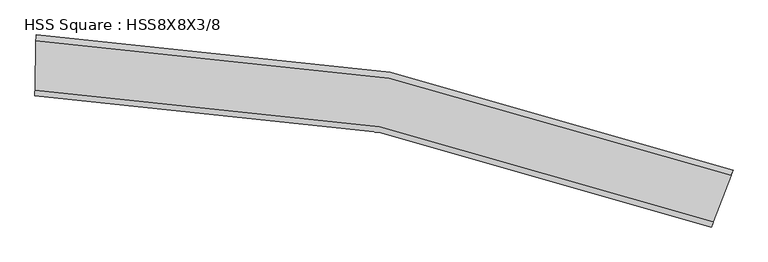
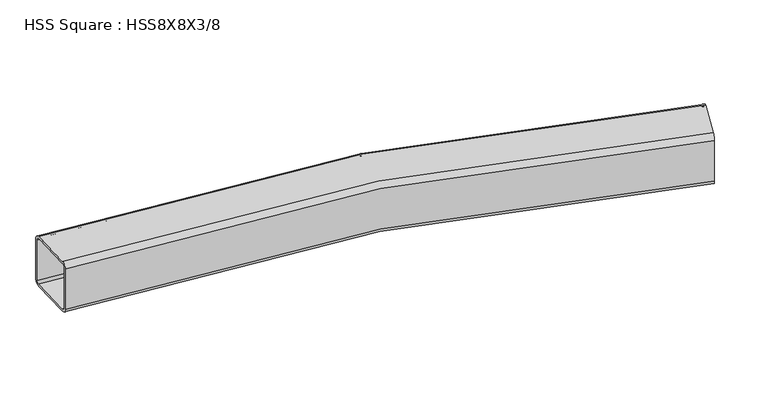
"""IFC4 building model written with IfcOpenShell, lengths in millimetres: beam geometry, HSS Square : HSS8X8X3/8."""

from ifc_helpers import new_model, si_unit, point, frame, origin, place, context, project, spatial, polyline, circle_curve, ellipse_curve, trimmed, source, transform, mapped, element, save
from ifc_brep_helpers import plane_surface, cylinder_surface, revolved_surface, advanced_brep


def hss_square_hss8x8x3_8_1cc8d9bf(model_context):
    return source(origin(), model_context, "Body", "AdvancedBrep", [
        advanced_brep(
        [(2459.9724964, -350.9683928, 82.55), (2453.1925998, -368.7710752, 101.6), (2394.4334956, -523.0609896, 101.6), (2387.653599, -540.863672, 82.55), (2387.653599, -540.863672, -82.55), (2394.4334956, -523.0609896, -101.6), (2453.1925998, -368.7710752, -101.6), (2459.9724964, -350.9683928, -82.55), (2394.4334956, -523.0609896, 92.075), (2453.1925998, -368.7710752, 92.075), (2456.5825481, -359.869734, 82.55), (2456.5825481, -359.869734, -82.55), (2453.1925998, -368.7710752, -92.075), (2394.4334956, -523.0609896, -92.075), (2391.0435473, -531.9623308, -82.55), (2391.0435473, -531.9623308, 82.55), (133.734971, 100.3061067, 82.55), (133.734971, 100.3061067, -82.55), (133.3663859, 81.2596728, -101.6), (130.1719814, -83.8094212, -101.6), (129.8033963, -102.8558551, -82.55), (129.8033963, -102.8558551, 82.55), (130.1719814, -83.8094212, 101.6), (133.3663859, 81.2596728, 101.6), (130.1719814, -83.8094212, 92.075), (129.9876888, -93.3326382, 82.55), (129.9876888, -93.3326382, -82.55), (130.1719814, -83.8094212, -92.075), (133.3663859, 81.2596728, -92.075), (133.5506784, 90.7828897, -82.55), (133.5506784, 90.7828897, 82.55), (133.3663859, 81.2596728, 92.075)],
        [
            (0, 1, circle_curve(frame((2453.1925998, -368.7710752, 82.55), z_axis=(0.9345240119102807, -0.355900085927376, 0.0), x_axis=(-0.355900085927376, -0.9345240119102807, 0.0)), 19.05)),
            (1, 2),
            (2, 3, circle_curve(frame((2394.4334956, -523.0609896, 82.55), z_axis=(0.9345240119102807, -0.355900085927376, 0.0), x_axis=(-0.355900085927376, -0.9345240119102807, 0.0)), 19.05)),
            (3, 4),
            (4, 5, circle_curve(frame((2394.4334956, -523.0609896, -82.55), z_axis=(0.9345240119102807, -0.355900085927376, 0.0), x_axis=(-0.355900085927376, -0.9345240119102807, 0.0)), 19.05)),
            (5, 6),
            (6, 7, circle_curve(frame((2453.1925998, -368.7710752, -82.55), z_axis=(0.9345240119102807, -0.355900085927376, 0.0), x_axis=(-0.355900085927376, -0.9345240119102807, 0.0)), 19.05)),
            (7, 0),
            (8, 9),
            (9, 10, circle_curve(frame((2453.1925998, -368.7710752, 82.55), z_axis=(-0.9345240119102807, 0.355900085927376, 0.0), x_axis=(-0.355900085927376, -0.9345240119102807, 0.0)), 9.525)),
            (10, 11),
            (11, 12, circle_curve(frame((2453.1925998, -368.7710752, -82.55), z_axis=(-0.9345240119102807, 0.355900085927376, 0.0), x_axis=(-0.355900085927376, -0.9345240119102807, 0.0)), 9.525)),
            (12, 13),
            (13, 14, circle_curve(frame((2394.4334956, -523.0609896, -82.55), z_axis=(-0.9345240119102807, 0.355900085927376, 0.0), x_axis=(-0.355900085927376, -0.9345240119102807, 0.0)), 9.525)),
            (14, 15),
            (15, 8, circle_curve(frame((2394.4334956, -523.0609896, 82.55), z_axis=(-0.9345240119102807, 0.355900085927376, 0.0), x_axis=(-0.355900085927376, -0.9345240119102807, 0.0)), 9.525)),
            (16, 17),
            (17, 18, circle_curve(frame((133.3663859, 81.2596728, -82.55), z_axis=(-0.999812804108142, 0.019348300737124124, 0.0), x_axis=(-0.019348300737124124, -0.999812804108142, 0.0)), 19.05)),
            (18, 19),
            (19, 20, circle_curve(frame((130.1719814, -83.8094212, -82.55), z_axis=(-0.999812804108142, 0.019348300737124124, 0.0), x_axis=(-0.019348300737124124, -0.999812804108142, 0.0)), 19.05)),
            (20, 21),
            (21, 22, circle_curve(frame((130.1719814, -83.8094212, 82.55), z_axis=(-0.999812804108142, 0.019348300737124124, 0.0), x_axis=(-0.019348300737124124, -0.999812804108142, 0.0)), 19.05)),
            (22, 23),
            (23, 16, circle_curve(frame((133.3663859, 81.2596728, 82.55), z_axis=(-0.999812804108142, 0.019348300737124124, 0.0), x_axis=(-0.019348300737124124, -0.999812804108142, 0.0)), 19.05)),
            (24, 25, circle_curve(frame((130.1719814, -83.8094212, 82.55), z_axis=(0.999812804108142, -0.019348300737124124, 0.0), x_axis=(-0.019348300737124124, -0.999812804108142, 0.0)), 9.525)),
            (25, 26),
            (26, 27, circle_curve(frame((130.1719814, -83.8094212, -82.55), z_axis=(0.999812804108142, -0.019348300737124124, 0.0), x_axis=(-0.019348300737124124, -0.999812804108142, 0.0)), 9.525)),
            (27, 28),
            (28, 29, circle_curve(frame((133.3663859, 81.2596728, -82.55), z_axis=(0.999812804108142, -0.019348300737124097, 0.0), x_axis=(-0.019348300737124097, -0.999812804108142, 0.0)), 9.525)),
            (29, 30),
            (30, 31, circle_curve(frame((133.3663859, 81.2596728, 82.55), z_axis=(0.999812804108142, -0.019348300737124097, 0.0), x_axis=(-0.019348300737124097, -0.999812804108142, 0.0)), 9.525)),
            (31, 24),
            (0, 16, circle_curve(frame((0.0, -6810.375, 82.55), z_axis=(0.0, 0.0, 1.0), x_axis=(0.19044289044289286, 0.9816982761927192, 0.0)), 6911.975)),
            (23, 1, circle_curve(frame((0.0, -6810.375, 101.6), z_axis=(0.0, 0.0, -1.0), x_axis=(0.19044289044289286, 0.9816982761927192, 0.0)), 6892.925)),
            (22, 2, circle_curve(frame((0.0, -6810.375, 101.6), z_axis=(0.0, 0.0, -1.0), x_axis=(0.19044289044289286, 0.9816982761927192, 0.0)), 6727.825)),
            (21, 3, circle_curve(frame((0.0, -6810.375, 82.55), z_axis=(0.0, 0.0, -1.0), x_axis=(0.19044289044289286, 0.9816982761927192, 0.0)), 6708.775)),
            (20, 4, circle_curve(frame((0.0, -6810.375, -82.55), z_axis=(0.0, 0.0, -1.0), x_axis=(0.19044289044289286, 0.9816982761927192, 0.0)), 6708.775)),
            (19, 5, circle_curve(frame((0.0, -6810.375, -101.6), z_axis=(0.0, 0.0, -1.0), x_axis=(0.19044289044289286, 0.9816982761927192, 0.0)), 6727.825)),
            (18, 6, circle_curve(frame((0.0, -6810.375, -101.6), z_axis=(0.0, 0.0, -1.0), x_axis=(0.19044289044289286, 0.9816982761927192, 0.0)), 6892.925)),
            (17, 7, circle_curve(frame((0.0, -6810.375, -82.55), z_axis=(0.0, 0.0, -1.0), x_axis=(0.19044289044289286, 0.9816982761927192, 0.0)), 6911.975)),
            (8, 24, circle_curve(frame((0.0, -6810.375, 92.075), z_axis=(0.0, 0.0, 1.0), x_axis=(0.19044289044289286, 0.9816982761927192, 0.0)), 6727.825)),
            (31, 9, circle_curve(frame((0.0, -6810.375, 92.075), z_axis=(0.0, 0.0, -1.0), x_axis=(0.19044289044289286, 0.9816982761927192, 0.0)), 6892.925)),
            (30, 10, circle_curve(frame((0.0, -6810.375, 82.55), z_axis=(0.0, 0.0, -1.0), x_axis=(0.19044289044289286, 0.9816982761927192, 0.0)), 6902.45)),
            (29, 11, circle_curve(frame((0.0, -6810.375, -82.55), z_axis=(0.0, 0.0, -1.0), x_axis=(0.19044289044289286, 0.9816982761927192, 0.0)), 6902.45)),
            (28, 12, circle_curve(frame((0.0, -6810.375, -92.075), z_axis=(0.0, 0.0, -1.0), x_axis=(0.19044289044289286, 0.9816982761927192, 0.0)), 6892.925)),
            (27, 13, circle_curve(frame((0.0, -6810.375, -92.075), z_axis=(0.0, 0.0, -1.0), x_axis=(0.19044289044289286, 0.9816982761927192, 0.0)), 6727.825)),
            (26, 14, circle_curve(frame((0.0, -6810.375, -82.55), z_axis=(0.0, 0.0, -1.0), x_axis=(0.19044289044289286, 0.9816982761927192, 0.0)), 6718.3)),
            (25, 15, circle_curve(frame((0.0, -6810.375, 82.55), z_axis=(0.0, 0.0, -1.0), x_axis=(0.19044289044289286, 0.9816982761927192, 0.0)), 6718.3)),
        ],
        [
            plane_surface(frame((2423.8130477, -445.9160324, 0.0), z_axis=(0.9345240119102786, -0.3559000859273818, 0.0), x_axis=(0.0, 0.0, 1.0))),
            plane_surface(frame((131.7691836, -1.2748742, 0.0), z_axis=(-0.9998128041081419, 0.019348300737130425, 0.0), x_axis=(0.0, 0.0, 1.0))),
            revolved_surface(trimmed(ellipse_curve(frame((1312.7085606, -43.6024096, 82.55), z_axis=(-0.9816982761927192, 0.1904428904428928, 0.0), x_axis=(-0.1904428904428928, -0.9816982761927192, 0.0)), 19.05, 19.05), [point((1312.7085606, -43.6024096, 101.6))], [point((1316.3364977, -24.9010574, 82.55))], True, "CARTESIAN"), (0.0, -6810.375, 0.0), (0.0, 0.0, -1.0)),
            plane_surface(frame((0.0, -6810.375, 101.6), z_axis=(0.0, 0.0, 1.0), x_axis=(0.19044289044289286, 0.9816982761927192, 0.0))),
            revolved_surface(trimmed(ellipse_curve(frame((1281.2664394, -205.680795, 82.55), z_axis=(-0.9816982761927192, 0.1904428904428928, 0.0), x_axis=(-0.1904428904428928, -0.9816982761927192, 0.0)), 19.05, 19.05), [point((1277.6385023, -224.3821471, 82.55))], [point((1281.2664394, -205.680795, 101.6))], True, "CARTESIAN"), (0.0, -6810.375, 0.0), (0.0, 0.0, -1.0)),
            revolved_surface(polyline([(1277.6385023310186, -224.38214713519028, -82.55), (1277.6385023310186, -224.38214713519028, 82.55)]), (0.0, -6810.375, 0.0), (0.0, 0.0, -1.0)),
            revolved_surface(trimmed(ellipse_curve(frame((1281.2664394, -205.680795, -82.55), z_axis=(-0.9816982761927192, 0.1904428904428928, 0.0), x_axis=(-0.1904428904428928, -0.9816982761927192, 0.0)), 19.05, 19.05), [point((1281.2664394, -205.680795, -101.6))], [point((1277.6385023, -224.3821471, -82.55))], True, "CARTESIAN"), (0.0, -6810.375, 0.0), (0.0, 0.0, -1.0)),
            plane_surface(frame((0.0, -6810.375, -101.6), z_axis=(0.0, 0.0, -1.0), x_axis=(0.19044289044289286, 0.9816982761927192, 0.0))),
            revolved_surface(trimmed(ellipse_curve(frame((1312.7085606, -43.6024096, -82.55), z_axis=(-0.9816982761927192, 0.1904428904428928, 0.0), x_axis=(-0.1904428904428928, -0.9816982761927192, 0.0)), 19.05, 19.05), [point((1316.3364977, -24.9010574, -82.55))], [point((1312.7085606, -43.6024096, -101.6))], True, "CARTESIAN"), (0.0, -6810.375, 0.0), (0.0, 0.0, -1.0)),
            cylinder_surface(frame((0.0, -6810.375, 0.0), z_axis=(0.0, 0.0, -1.0), x_axis=(0.19044289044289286, 0.9816982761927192, 0.0)), 6911.975),
            plane_surface(frame((0.0, -6810.375, 92.075), z_axis=(0.0, 0.0, -1.0), x_axis=(0.19044289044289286, 0.9816982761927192, 0.0))),
            revolved_surface(trimmed(ellipse_curve(frame((1312.7085606, -43.6024096, 82.55), z_axis=(0.9816982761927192, -0.19044289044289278, 0.0), x_axis=(-0.19044289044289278, -0.9816982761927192, 0.0)), 9.525, 9.525), [point((1314.5225291, -34.2517335, 82.55))], [point((1312.7085606, -43.6024096, 92.075))], True, "CARTESIAN"), (0.0, -6810.375, 0.0), (0.0, 0.0, -1.0)),
            revolved_surface(polyline([(1314.522529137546, -34.25173349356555, -82.55), (1314.522529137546, -34.25173349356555, 82.55)]), (0.0, -6810.375, 0.0), (0.0, 0.0, -1.0)),
            revolved_surface(trimmed(ellipse_curve(frame((1312.7085606, -43.6024096, -82.55), z_axis=(0.9816982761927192, -0.19044289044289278, 0.0), x_axis=(-0.19044289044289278, -0.9816982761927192, 0.0)), 9.525, 9.525), [point((1312.7085606, -43.6024096, -92.075))], [point((1314.5225291, -34.2517335, -82.55))], True, "CARTESIAN"), (0.0, -6810.375, 0.0), (0.0, 0.0, -1.0)),
            plane_surface(frame((0.0, -6810.375, -92.075), z_axis=(0.0, 0.0, 1.0), x_axis=(0.19044289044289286, 0.9816982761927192, 0.0))),
            revolved_surface(trimmed(ellipse_curve(frame((1281.2664394, -205.680795, -82.55), z_axis=(0.9816982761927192, -0.1904428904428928, 0.0), x_axis=(-0.1904428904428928, -0.9816982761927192, 0.0)), 9.525, 9.525), [point((1279.4524709, -215.0314711, -82.55))], [point((1281.2664394, -205.680795, -92.075))], True, "CARTESIAN"), (0.0, -6810.375, 0.0), (0.0, 0.0, -1.0)),
            cylinder_surface(frame((0.0, -6810.375, 0.0), z_axis=(0.0, 0.0, -1.0), x_axis=(0.19044289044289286, 0.9816982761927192, 0.0)), 6718.3),
            revolved_surface(trimmed(ellipse_curve(frame((1281.2664394, -205.680795, 82.55), z_axis=(0.9816982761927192, -0.1904428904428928, 0.0), x_axis=(-0.1904428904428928, -0.9816982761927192, 0.0)), 9.525, 9.525), [point((1281.2664394, -205.680795, 92.075))], [point((1279.4524709, -215.0314711, 82.55))], True, "CARTESIAN"), (0.0, -6810.375, 0.0), (0.0, 0.0, -1.0)),
        ],
        [
            (0, [[1, 2, 3, 4, 5, 6, 7, 8], [9, 10, 11, 12, 13, 14, 15, 16]]),
            (1, [[17, 18, 19, 20, 21, 22, 23, 24], [25, 26, 27, 28, 29, 30, 31, 32]]),
            (2, [[-1, 33, -24, 34]]),
            (3, [[-2, -34, -23, 35]]),
            (4, [[-3, -35, -22, 36]]),
            (5, [[-4, -36, -21, 37]]),
            (6, [[-5, -37, -20, 38]]),
            (7, [[-6, -38, -19, 39]]),
            (8, [[-7, -39, -18, 40]]),
            (9, [[-8, -40, -17, -33]]),
            (10, [[-9, 41, -32, 42]]),
            (11, [[-10, -42, -31, 43]]),
            (12, [[-11, -43, -30, 44]]),
            (13, [[-12, -44, -29, 45]]),
            (14, [[-13, -45, -28, 46]]),
            (15, [[-14, -46, -27, 47]]),
            (16, [[-15, -47, -26, 48]]),
            (17, [[-16, -48, -25, -41]]),
        ],
    ),
    ])


if __name__ == "__main__":
    model = new_model("IFC4")
    model_context = context("Model", 3, world=origin())
    ifc_project = project(units=[si_unit("LENGTHUNIT", "METRE", prefix="MILLI")], contexts=[model_context])
    site = spatial("IfcSite", under=ifc_project)
    building = spatial("IfcBuilding", under=site)
    placement = place(None, origin())
    hss_square_hss8x8x3_8_shape = hss_square_hss8x8x3_8_1cc8d9bf(model_context)
    element("IfcBeam", 1, ObjectType="HSS Square : HSS8X8X3/8", at=placement, inside=building, context=model_context, shape_type="MappedRepresentation", body=[
        mapped(hss_square_hss8x8x3_8_shape, transform((0.0, 0.0, 0.0), x_axis=(1.0, 0.0, 0.0), y_axis=(0.0, 1.0, 0.0), z_axis=(0.0, 0.0, 1.0))),
    ])
    save(model, "model.ifc")
